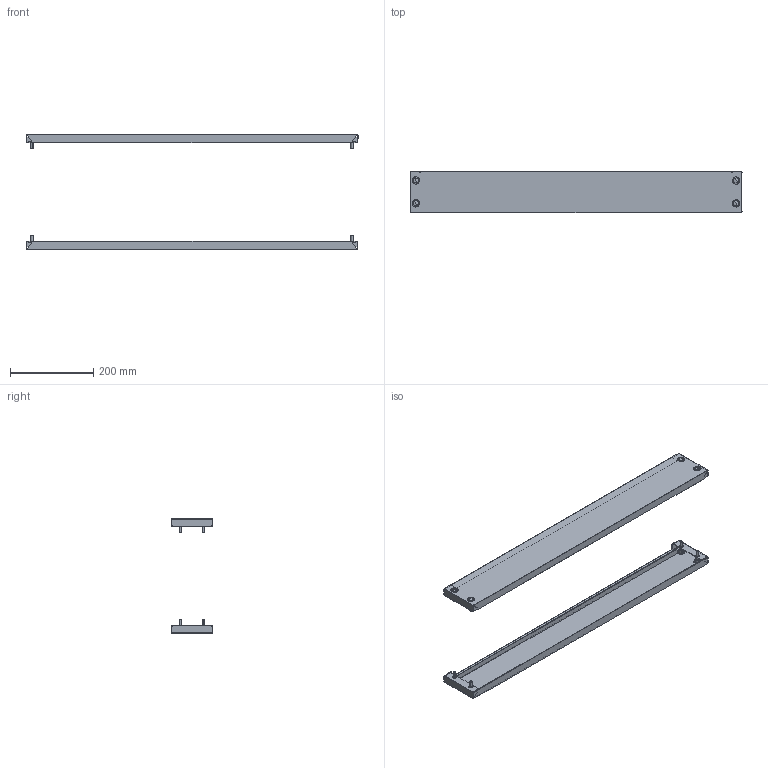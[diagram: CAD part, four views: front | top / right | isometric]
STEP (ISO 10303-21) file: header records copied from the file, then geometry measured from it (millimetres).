
FILE_DESCRIPTION (( 'STEP AP203' ), '1' );
FILE_NAME ('R5FZ8-300.STEP', '2025-06-18T08:38:55', ( '' ), ( '' ), 'SwSTEP 2.0', 'SolidWorks 2022', '' );
FILE_SCHEMA (( 'CONFIG_CONTROL_DESIGN' ));
Length unit declared in the file: millimetre
Products named in the file (5): M6x16 DIN 912 HX cl.4,8 Zinc_stright; 6 DIN 6798 A Zinc; RB.1055.00.00.0 simple_-03 (800); Plug_11.5-13Д18ЧК_-00; R5FZ8-300
Assembly tree (26 placements, depth 2):
  R5FZ8-300
    RB.1055.00.00.0 simple_-03 (800)  x2
    M6x16 DIN 912 HX cl.4,8 Zinc_stright  x8
    6 DIN 6798 A Zinc  x8
    Plug_11.5-13Д18ЧК_-00  x8
Bounding box: 799 x 100.05 x 278.5 mm (x, y, z)
Volume: 384268.8 mm3; surface area: 520303.7 mm2
Topology: 26 solids, 26 shells, 1196 faces, 3456 edges, 2112 vertices
Faces by surface type: plane 700, bspline 208, cylinder 128, cone 96, torus 48, sphere 16
Entity records: 9921 total; most frequent: CARTESIAN_POINT 2626, ORIENTED_EDGE 1352, DIRECTION 1188, EDGE_CURVE 676, VECTOR 448, LINE 448, VERTEX_POINT 444, AXIS2_PLACEMENT_3D 370
